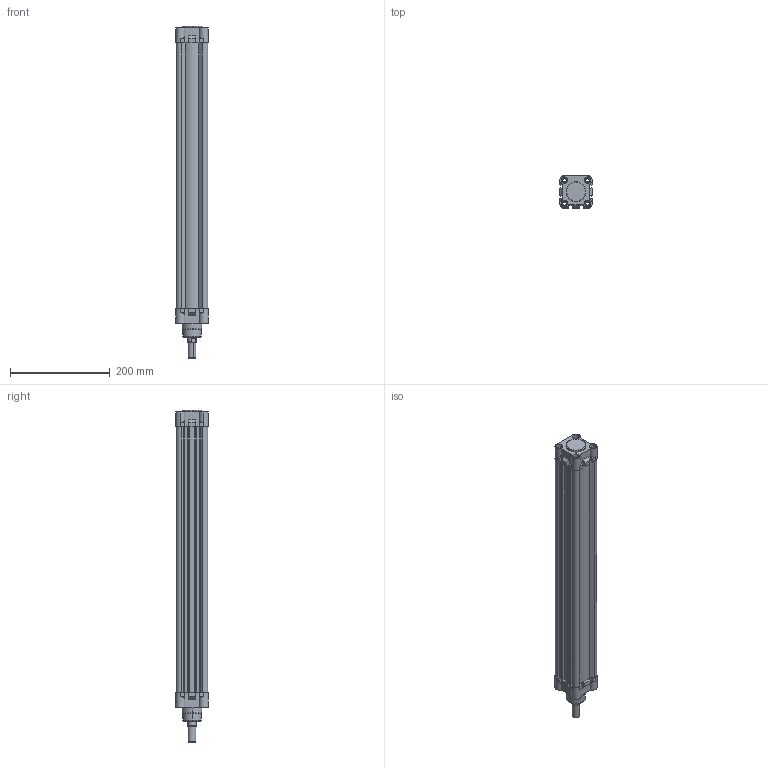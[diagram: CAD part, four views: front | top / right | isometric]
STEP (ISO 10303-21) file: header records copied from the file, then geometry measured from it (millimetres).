
FILE_DESCRIPTION (( 'STEP AP214' ), '1' );
FILE_NAME ('RIC50_500_MY_WEB.STEP', '2020-07-05T17:34:22', ( '' ), ( '' ), 'SwSTEP 2.0', 'SolidWorks 2018', '' );
FILE_SCHEMA (( 'AUTOMOTIVE_DESIGN' ));
Length unit declared in the file: millimetre
Products named in the file (6): 20_MIL_WEB; 50_ARKA_KAPAK_WEB; 50_BORU; 50_ON_KAPAK_WEB; RIC50_500_MY_WEB; 50bogazkecesi
Assembly tree (5 placements, depth 2):
  RIC50_500_MY_WEB
    50_BORU
    50_ARKA_KAPAK_WEB
    50_ON_KAPAK_WEB
    20_MIL_WEB
    50bogazkecesi
Bounding box: 65 x 65 x 665 mm (x, y, z)
Volume: 936457.8 mm3; surface area: 376081.9 mm2
Topology: 5 solids, 5 shells, 576 faces, 1465 edges, 952 vertices
Faces by surface type: plane 265, cylinder 172, bspline 83, cone 40, torus 16
Entity records: 23952 total; most frequent: CARTESIAN_POINT 8155, ORIENTED_EDGE 2930, DIRECTION 2697, EDGE_CURVE 1465, VERTEX_POINT 952, AXIS2_PLACEMENT_3D 919, VECTOR 859, LINE 859
